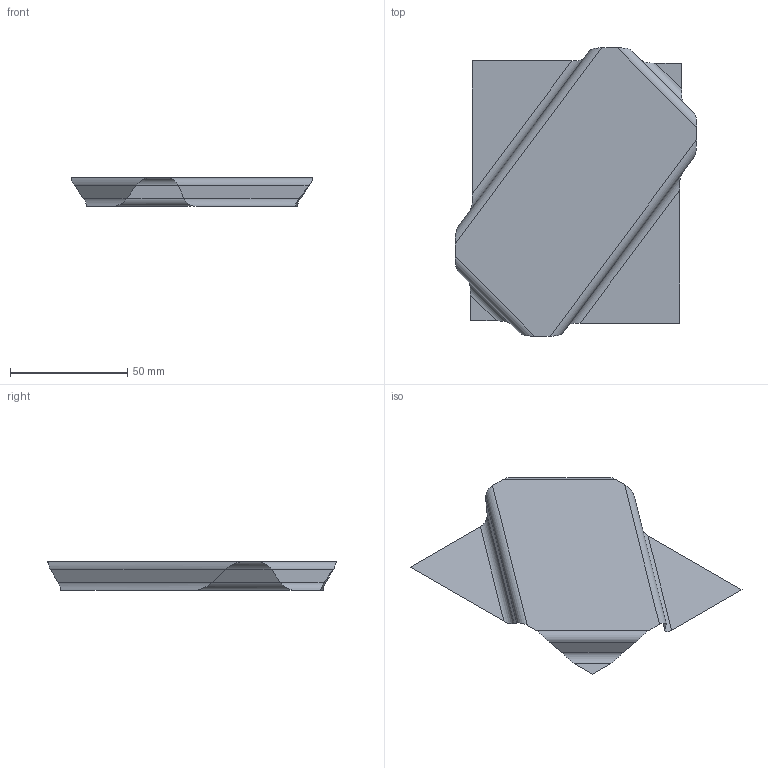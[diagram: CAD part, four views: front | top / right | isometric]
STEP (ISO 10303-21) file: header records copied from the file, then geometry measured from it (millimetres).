
FILE_DESCRIPTION(('CATIA V5 STEP Exchange'),'2;1');
FILE_NAME('C:\_Andres\UNIVERSIDAD\IQS\ASIGNATURAS\DAO\EXF\EXF-15161c\1original\Martínez_Perelló_Ej03-chapa_v13.stp','2016-03-04T16:55:54+00:00',('none'),('none'),'CATIA Version 5 Release 20 SP 1 (IN-10)','CATIA V5 STEP AP203','none');
FILE_SCHEMA(('CONFIG_CONTROL_DESIGN'));
Length unit declared in the file: millimetre
Products named in the file (1): Martínez_Perelló_Ej03-chapa_v13
Bounding box: 103.01 x 123.01 x 12.29 mm (x, y, z)
Surface area: 12710.6 mm2 (no closed solid volume)
Topology: 0 solids, 1 shells, 17 faces, 52 edges, 36 vertices
Faces by surface type: plane 9, cylinder 8
Entity records: 627 total; most frequent: CARTESIAN_POINT 198, ORIENTED_EDGE 68, DIRECTION 61, EDGE_CURVE 52, VERTEX_POINT 36, B_SPLINE_CURVE_WITH_KNOTS 27, VECTOR 25, LINE 25
